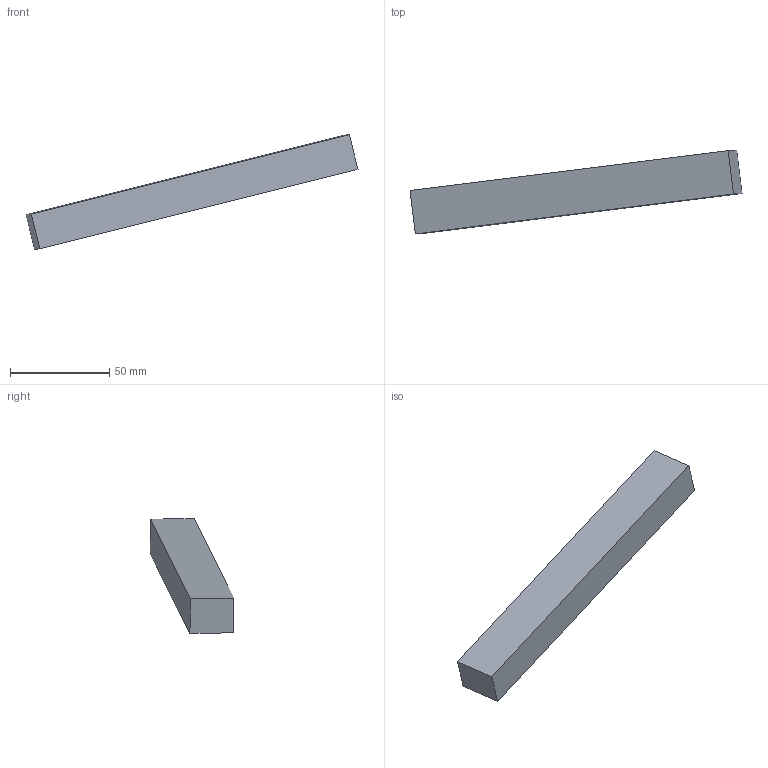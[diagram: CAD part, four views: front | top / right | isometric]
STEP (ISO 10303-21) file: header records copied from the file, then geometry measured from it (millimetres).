
FILE_DESCRIPTION(('Open CASCADE Model'),'2;1');
FILE_NAME('Open CASCADE Shape Model','2026-09-19T23:46:39',('Author'),( 'Open CASCADE'),'Open CASCADE STEP processor 7.9','Open CASCADE 7.9' ,'Unknown');
FILE_SCHEMA(('AUTOMOTIVE_DESIGN { 1 0 10303 214 1 1 1 1 }'));
Length unit declared in the file: millimetre
Products named in the file (1): Open CASCADE STEP translator 7.9 8
Bounding box: 166.98 x 42.1 x 57.79 mm (x, y, z)
Volume: 65788.5 mm3; surface area: 14082.6 mm2
Topology: 1 solids, 1 shells, 6 faces, 12 edges, 8 vertices
Faces by surface type: plane 6
Entity records: 322 total; most frequent: CARTESIAN_POINT 51, DIRECTION 50, LINE 36, VECTOR 36, ORIENTED_EDGE 24, PCURVE 24, DEFINITIONAL_REPRESENTATION 24, EDGE_CURVE 12
